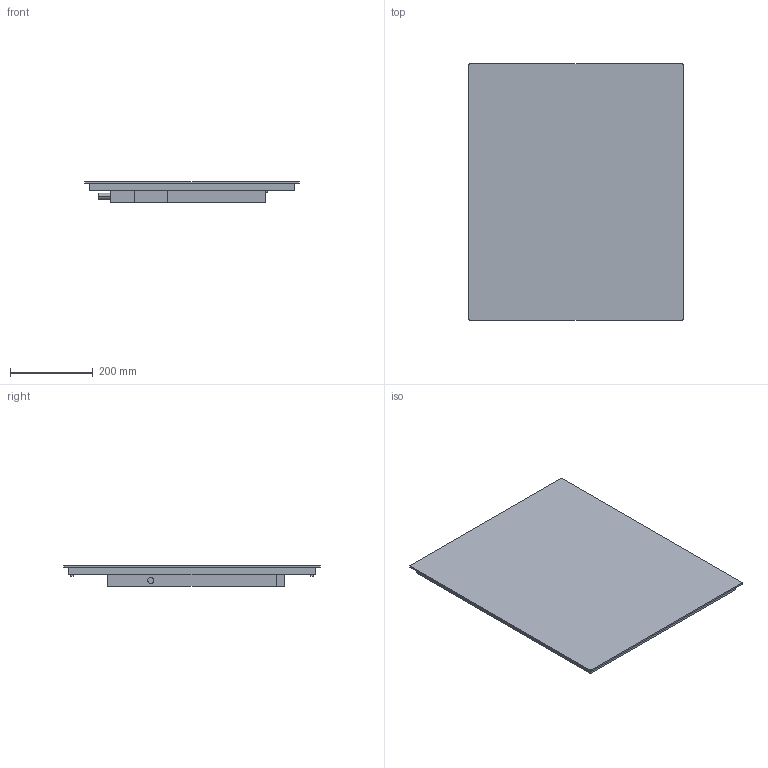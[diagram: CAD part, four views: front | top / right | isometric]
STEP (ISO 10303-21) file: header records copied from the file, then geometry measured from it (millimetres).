
FILE_DESCRIPTION(('CATIA V5 STEP','CAx-IF Rec.Pracs.--- Model Styling and Organization---1.2---2011-12-15'),'2;1');
FILE_NAME('d:\opendxmdata\jobs\0171455\0024_001_out\Simp_KM6329.stp','2017-12-12T09:33:14+00:00',('none'),('none'),'Version 5-6 Release 2012','CATIA V5 STEP AP214','none');
FILE_SCHEMA(('AUTOMOTIVE_DESIGN { 1 0 10303 214 1 1 1 1 }'));
Length unit declared in the file: millimetre
Products named in the file (1): Simplifizierung_KM6329
Bounding box: 520 x 620 x 50.7 mm (x, y, z)
Volume: 10920521.8 mm3; surface area: 1334446 mm2
Topology: 3 solids, 3 shells, 43 faces, 102 edges, 68 vertices
Faces by surface type: plane 37, cylinder 6
Entity records: 1234 total; most frequent: CARTESIAN_POINT 211, ORIENTED_EDGE 204, DIRECTION 182, EDGE_CURVE 102, VECTOR 90, LINE 90, VERTEX_POINT 68, AXIS2_PLACEMENT_3D 53
